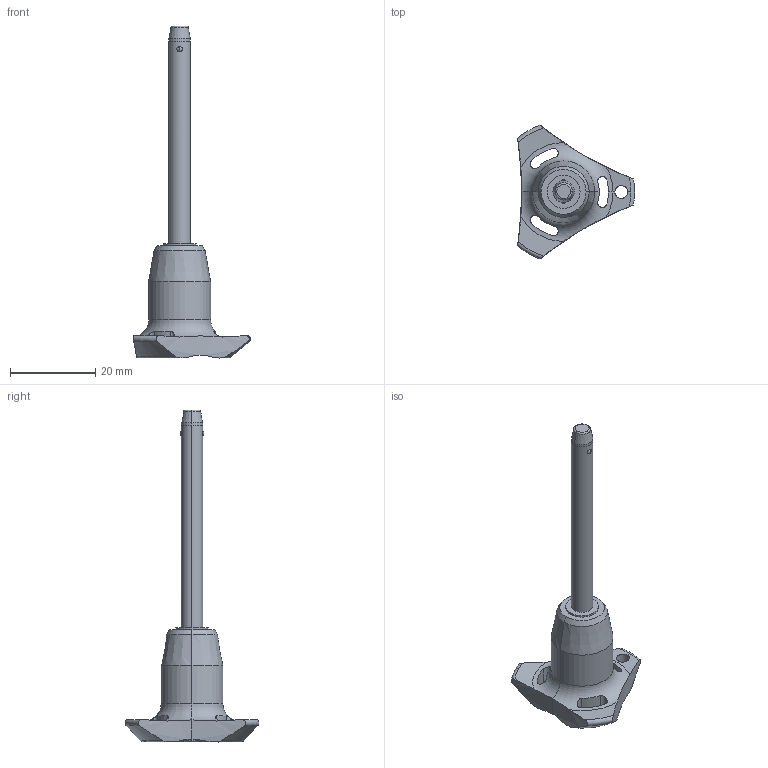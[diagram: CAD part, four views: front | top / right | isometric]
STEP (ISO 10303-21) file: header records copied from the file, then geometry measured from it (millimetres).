
FILE_DESCRIPTION (( 'STEP AP203' ), '1' );
FILE_NAME ('QR1736.M05-045-T.step', '2025-11-13T11:48:10', ( '' ), ( '' ), 'SwSTEP 2.0', 'SolidWorks 2019', '' );
FILE_SCHEMA (( 'CONFIG_CONTROL_DESIGN' ));
Length unit declared in the file: millimetre
Products named in the file (1): QR1736.M05-045-T
Bounding box: 27.4 x 31.31 x 77.7 mm (x, y, z)
Volume: 5751.5 mm3; surface area: 3215.3 mm2
Topology: 1 solids, 1 shells, 69 faces, 187 edges, 119 vertices
Faces by surface type: cylinder 32, cone 14, torus 12, sphere 6, plane 5
Entity records: 2773 total; most frequent: CARTESIAN_POINT 994, ORIENTED_EDGE 374, DIRECTION 348, EDGE_CURVE 187, AXIS2_PLACEMENT_3D 155, VERTEX_POINT 119, CIRCLE 85, EDGE_LOOP 76
